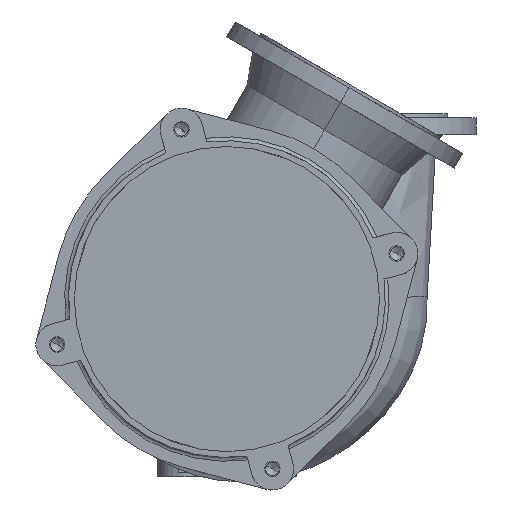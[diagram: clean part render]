
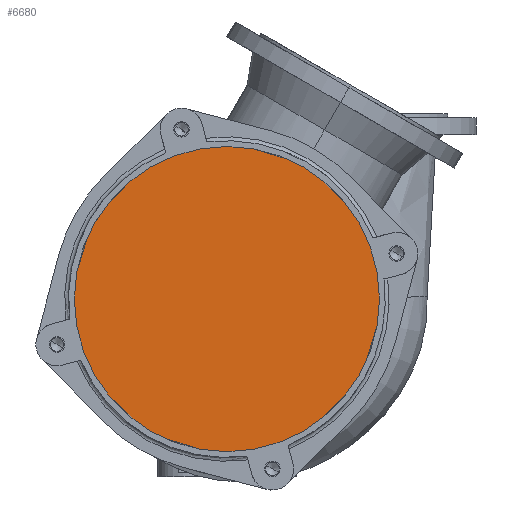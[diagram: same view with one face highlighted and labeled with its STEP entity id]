
A CAD part, front view. The second image highlights one B-rep face of the part: STEP entity #6680.
In plain terms, the highlighted planar face has unit normal (0, -1, 0).
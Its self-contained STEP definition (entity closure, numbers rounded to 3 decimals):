
#1=CARTESIAN_POINT('',(0.,0.,0.));
#2=DIRECTION('',(0.,-1.,0.));
#3=DIRECTION('',(0.,0.,1.));
#4=AXIS2_PLACEMENT_3D('',#1,#2,#3);
#6=CARTESIAN_POINT('',(0.,0.,0.));
#7=DIRECTION('',(0.,-1.,0.));
#8=DIRECTION('',(0.,0.,-1.));
#9=AXIS2_PLACEMENT_3D('',#6,#7,#8);
#5681=CARTESIAN_POINT('',(0.,0.,197.5));
#5682=CARTESIAN_POINT('',(0.,0.,-197.5));
#5683=VERTEX_POINT('',#5681);
#5684=VERTEX_POINT('',#5682);
#6669=CARTESIAN_POINT('',(0.,0.,0.));
#6670=DIRECTION('',(0.,1.,0.));
#6671=DIRECTION('',(0.,0.,-1.));
#6672=AXIS2_PLACEMENT_3D('',#6669,#6670,#6671);
#6673=PLANE('',#6672);
#6675=ORIENTED_EDGE('',*,*,#6674,.F.);
#6677=ORIENTED_EDGE('',*,*,#6676,.F.);
#6678=EDGE_LOOP('',(#6675,#6677));
#6679=FACE_OUTER_BOUND('',#6678,.F.);
#6680=ADVANCED_FACE('',(#6679),#6673,.F.);
#5=CIRCLE('',#4,197.5);
#10=CIRCLE('',#9,197.5);
#6674=EDGE_CURVE('',#5683,#5684,#5,.T.);
#6676=EDGE_CURVE('',#5684,#5683,#10,.T.);
